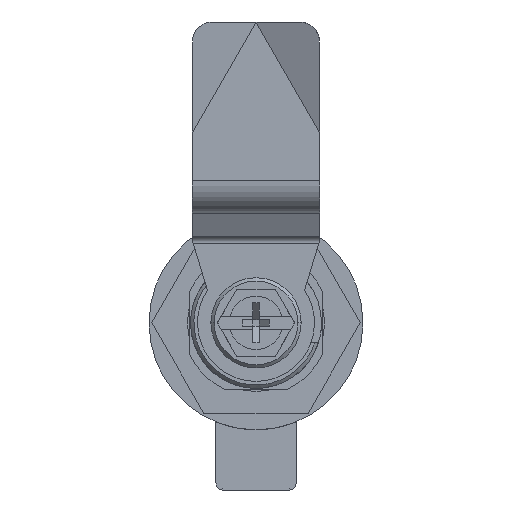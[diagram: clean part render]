
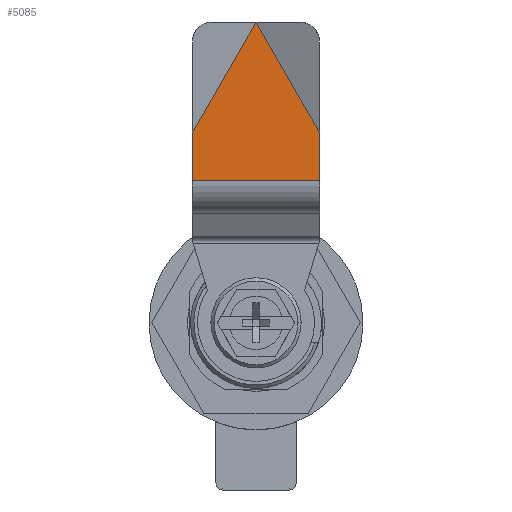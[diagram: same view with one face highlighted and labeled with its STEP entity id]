
A CAD part, front view. The second image highlights one B-rep face of the part: STEP entity #5085.
In plain terms, the highlighted planar face has unit normal (0, -1, 0).
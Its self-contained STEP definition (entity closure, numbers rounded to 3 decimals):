
#157 = CARTESIAN_POINT ( 'NONE',  ( -28.546, -22., -9.5 ) ) ;
#792 = VERTEX_POINT ( 'NONE', #3464 ) ;
#808 = DIRECTION ( 'NONE',  ( 0.866, 0., -0.5 ) ) ;
#887 = CARTESIAN_POINT ( 'NONE',  ( -11.25, -22., -19.486 ) ) ;
#947 = VECTOR ( 'NONE', #808, 1000. ) ;
#1067 = VECTOR ( 'NONE', #2048, 1000. ) ;
#1141 = PLANE ( 'NONE',  #6517 ) ;
#1243 = LINE ( 'NONE', #3196, #7156 ) ;
#1365 = DIRECTION ( 'NONE',  ( 0., 0., 1. ) ) ;
#1391 = CARTESIAN_POINT ( 'NONE',  ( -21.317, -22., -9.5 ) ) ;
#1693 = EDGE_CURVE ( 'NONE', #3286, #792, #1243, .T. ) ;
#1975 = ORIENTED_EDGE ( 'NONE', *, *, #2175, .T. ) ;
#2038 = DIRECTION ( 'NONE',  ( -0.866, 0., -0.5 ) ) ;
#2048 = DIRECTION ( 'NONE',  ( 1., 0., 0. ) ) ;
#2051 = VERTEX_POINT ( 'NONE', #1391 ) ;
#2175 = EDGE_CURVE ( 'NONE', #4320, #7551, #5336, .T. ) ;
#2196 = CARTESIAN_POINT ( 'NONE',  ( -45., -22., 0. ) ) ;
#2205 = EDGE_CURVE ( 'NONE', #3286, #4320, #5242, .T. ) ;
#2519 = FACE_OUTER_BOUND ( 'NONE', #4846, .T. ) ;
#2547 = LINE ( 'NONE', #3357, #1067 ) ;
#3196 = CARTESIAN_POINT ( 'NONE',  ( -20.5, -22., 9.5 ) ) ;
#3241 = CARTESIAN_POINT ( 'NONE',  ( -21.317, -22., 36.63 ) ) ;
#3283 = VECTOR ( 'NONE', #1365, 1000. ) ;
#3286 = VERTEX_POINT ( 'NONE', #4306 ) ;
#3357 = CARTESIAN_POINT ( 'NONE',  ( -20.5, -22., -9.5 ) ) ;
#3381 = CARTESIAN_POINT ( 'NONE',  ( -11.25, -22., 19.486 ) ) ;
#3397 = ORIENTED_EDGE ( 'NONE', *, *, #7668, .T. ) ;
#3464 = CARTESIAN_POINT ( 'NONE',  ( -21.317, -22., 9.5 ) ) ;
#3741 = DIRECTION ( 'NONE',  ( 1., 0., 0. ) ) ;
#4306 = CARTESIAN_POINT ( 'NONE',  ( -28.546, -22., 9.5 ) ) ;
#4320 = VERTEX_POINT ( 'NONE', #2196 ) ;
#4424 = DIRECTION ( 'NONE',  ( 0., 1., 0. ) ) ;
#4492 = ORIENTED_EDGE ( 'NONE', *, *, #2205, .T. ) ;
#4508 = ORIENTED_EDGE ( 'NONE', *, *, #7575, .T. ) ;
#4846 = EDGE_LOOP ( 'NONE', ( #3397, #4508, #5664, #4492, #1975 ) ) ;
#5034 = CARTESIAN_POINT ( 'NONE',  ( -20.5, -22., 36.63 ) ) ;
#5085 = ADVANCED_FACE ( 'NONE', ( #2519 ), #1141, .F. ) ;
#5242 = LINE ( 'NONE', #3381, #7035 ) ;
#5336 = LINE ( 'NONE', #887, #947 ) ;
#5664 = ORIENTED_EDGE ( 'NONE', *, *, #1693, .F. ) ;
#5742 = LINE ( 'NONE', #3241, #3283 ) ;
#6517 = AXIS2_PLACEMENT_3D ( 'NONE', #5034, #4424, #6974 ) ;
#6974 = DIRECTION ( 'NONE',  ( 0., 0., 1. ) ) ;
#7035 = VECTOR ( 'NONE', #2038, 1000. ) ;
#7156 = VECTOR ( 'NONE', #3741, 1000. ) ;
#7551 = VERTEX_POINT ( 'NONE', #157 ) ;
#7575 = EDGE_CURVE ( 'NONE', #2051, #792, #5742, .T. ) ;
#7668 = EDGE_CURVE ( 'NONE', #7551, #2051, #2547, .T. ) ;
